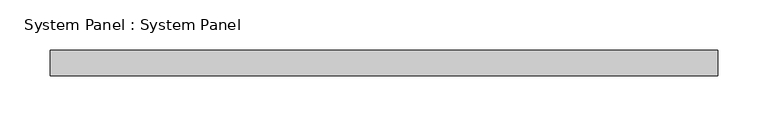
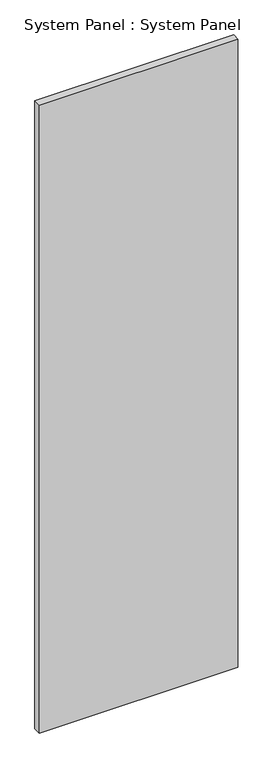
"""IFC4 building model written with IfcOpenShell, lengths in millimetres: plate geometry, System Panel : System Panel."""

from ifc_helpers import new_model, si_unit, origin, origin_with_axes, place, context, project, spatial, polyline, outline, extrude, source, transform, mapped, element, save


def system_panel_system_panel_237256c1(model_context):
    return source(origin(), model_context, "Body", "SweptSolid", [
        extrude(outline(polyline([(333.375, 19.05), (-333.375, 19.05), (-333.375, 44.45), (333.375, 44.45), (333.375, 19.05)])), origin_with_axes(), (0.0, 0.0, 1.0), 2228.85),
    ])


if __name__ == "__main__":
    model = new_model("IFC4")
    model_context = context("Model", 3, world=origin())
    ifc_project = project(units=[si_unit("LENGTHUNIT", "METRE", prefix="MILLI")], contexts=[model_context])
    site = spatial("IfcSite", under=ifc_project)
    building = spatial("IfcBuilding", under=site)
    placement = place(None, origin())
    system_panel_system_panel_shape = system_panel_system_panel_237256c1(model_context)
    element("IfcPlate", 1, ObjectType="System Panel : System Panel", at=placement, inside=building, context=model_context, shape_type="MappedRepresentation", body=[
        mapped(system_panel_system_panel_shape, transform((0.0, 0.0, 0.0), x_axis=(1.0, 0.0, 0.0), y_axis=(0.0, 1.0, 0.0), z_axis=(0.0, 0.0, 1.0))),
    ])
    save(model, "model.ifc")
